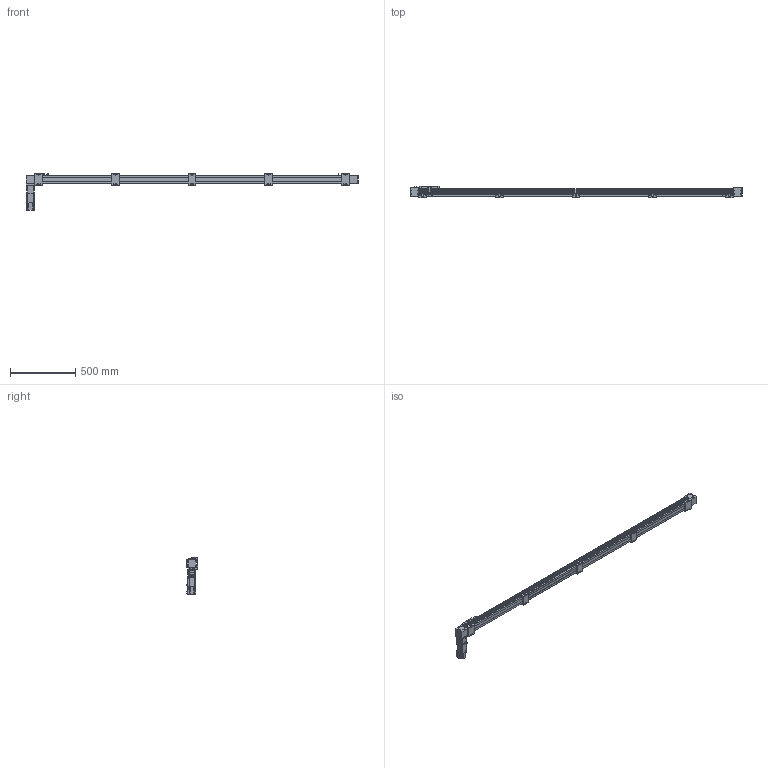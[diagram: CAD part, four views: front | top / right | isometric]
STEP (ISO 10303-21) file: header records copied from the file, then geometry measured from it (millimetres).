
FILE_DESCRIPTION(/* description */ ('STEP AP203'),/* implementation_level */ '2;1');
FILE_NAME(/* name */ 'SK60-P13-S2250-BR-T40-C1-N(0)',/* time_stamp */ '2023-04-06T04:00:49+02:00',/* author */ ('License CC BY-ND 4.0'),/* organization */ ('CADENAS'),/* preprocessor_version */ 'ST-DEVELOPER v19.3',/* originating_system */ 'PARTsolutions',/* authorisation */ ' ');
FILE_SCHEMA (('CONFIG_CONTROL_DESIGN'));
Length unit declared in the file: millimetre
Products named in the file (11): SK60-P13-S2250-BR-T40-C1-N(0); PSC140-sensor; SK60-S450_seat; SK60-S450-BL-C1_slider; SK60_body3; SK60_body6; SK60-BL_body2; T40-p1; SK60_body5; SK60_body4; SK60-S2250-BR-C1_body
Assembly tree (20 placements, depth 2):
  SK60-P13-S2250-BR-T40-C1-N(0)
    PSC140-sensor  x3
    SK60-S450_seat  x5
    SK60-S450-BL-C1_slider
    SK60_body3  x3
    SK60_body6  x2
    SK60-BL_body2  x2
    T40-p1
    SK60_body5
    SK60_body4
    SK60-S2250-BR-C1_body
Bounding box: 2550 x 90 x 279.1 mm (x, y, z)
Volume: 9270135.4 mm3; surface area: 1143894.5 mm2
Topology: 20 solids, 24 shells, 966 faces, 2403 edges, 1586 vertices
Faces by surface type: plane 616, cylinder 314, cone 34, torus 2
Full cylindrical faces by diameter (mm): 2.8 x3, 3.3 x4, 4.2 x8, 4.5 x26, 4.6 x3, 4.917 x28, 5 x2, 5.478 x4, 5.5 x31, 6.5 x10, 8 x4, 8.5 x4, 9.988 x4, 10 x20, 13.556 x1, 14 x1, 14.586 x1, 19.692 x1, 38.432 x2, 43 x1, 44 x3, 47 x2, 50 x2
Entity records: 19395 total; most frequent: DIRECTION 3298, CARTESIAN_POINT 3292, ORIENTED_EDGE 3050, EDGE_CURVE 1525, AXIS2_PLACEMENT_3D 1103, LINE 1092, VECTOR 1092, VERTEX_POINT 1077
